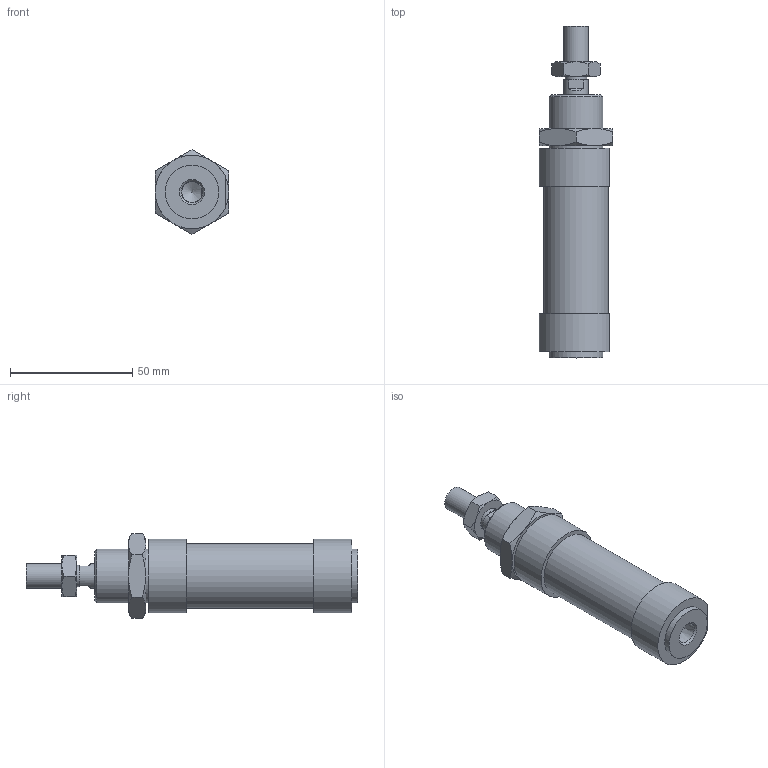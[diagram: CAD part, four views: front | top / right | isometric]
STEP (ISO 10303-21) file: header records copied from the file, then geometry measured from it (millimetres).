
FILE_DESCRIPTION((''),'2;1');
FILE_NAME('I:\Area Tecnica\Disegni\VARIE-3D\Componenti\1280\1281_##_####_#\1281_25_0015.iam.stp','2009-06-04T09:40:06',(''),(''),'Autodesk Inventor 2010','Autodesk Inventor 2010','');
FILE_SCHEMA(('AUTOMOTIVE_DESIGN { 1 0 10303 214 1 1 1 1 }'));
Length unit declared in the file: millimetre
Products named in the file (5): 1281_25_0015; C1281_25_15; S1280_25_15; 1200_25_05; 1200_25_06
Assembly tree (4 placements, depth 2):
  1281_25_0015
    C1281_25_15
    S1280_25_15
    1200_25_05
    1200_25_06
Bounding box: 30 x 135.5 x 34.64 mm (x, y, z)
Volume: 64010 mm3; surface area: 18340.7 mm2
Topology: 4 solids, 4 shells, 86 faces, 185 edges, 112 vertices
Faces by surface type: plane 36, cone 26, bspline 15, cylinder 9
Full cylindrical faces by diameter (mm): 8.8 x1, 10 x3, 22 x2, 26.5 x1
Entity records: 2529 total; most frequent: CARTESIAN_POINT 690, DIRECTION 332, ORIENTED_EDGE 310, EDGE_CURVE 155, AXIS2_PLACEMENT_3D 148, EDGE_LOOP 120, VERTEX_POINT 103, STYLED_ITEM 90
